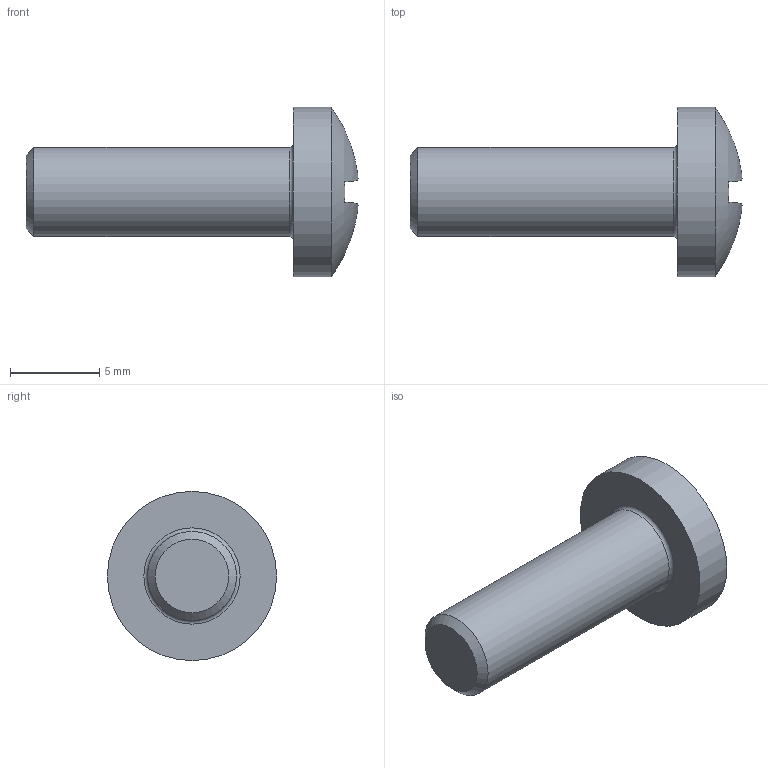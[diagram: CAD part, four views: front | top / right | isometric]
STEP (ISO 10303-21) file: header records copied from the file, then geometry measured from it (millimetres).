
FILE_DESCRIPTION(/* description */ ('STEP AP242 Edition 2','CAx-IF Rec.Pracs.---Representation and Presentation of Product Manufacturing Information (PMI)---4.0---2014-10-13','CAx-IF Rec.Pracs.---3D Tessellated Geometry---0.4---2014-09-14','2;1','CAx-IF Rec.Pracs.---User Defined Attributes---1.5---2016-08-15'),/* implementation_level */ '2;1');
FILE_NAME(/* name */ 'Final Build - M5x15 (5)',/* time_stamp */ '2026-08-31T23:26:17Z',/* author */ (''),/* organization */ (''),/* preprocessor_version */ 'ST-DEVELOPER v20',/* originating_system */ 'ONSHAPE BY PTC INC, 1.220',/* authorisation */ ' ');
FILE_SCHEMA (('AP242_MANAGED_MODEL_BASED_3D_ENGINEERING_MIM_LF { 1 0 10303 442 3 1 4 }'));
Length unit declared in the file: metre
Products named in the file (1): M5x15
Bounding box: 18.63 x 9.5 x 9.5 mm (x, y, z)
Volume: 471.1 mm3; surface area: 494.2 mm2
Topology: 1 solids, 1 shells, 32 faces, 88 edges, 58 vertices
Faces by surface type: plane 26, cylinder 2, cone 2, sphere 1, torus 1
Full cylindrical faces by diameter (mm): 5 x1, 9.5 x1
Entity records: 1002 total; most frequent: CARTESIAN_POINT 214, DIRECTION 158, ORIENTED_EDGE 156, EDGE_CURVE 78, AXIS2_PLACEMENT_3D 63, VERTEX_POINT 55, FACE_BOUND 39, EDGE_LOOP 38
